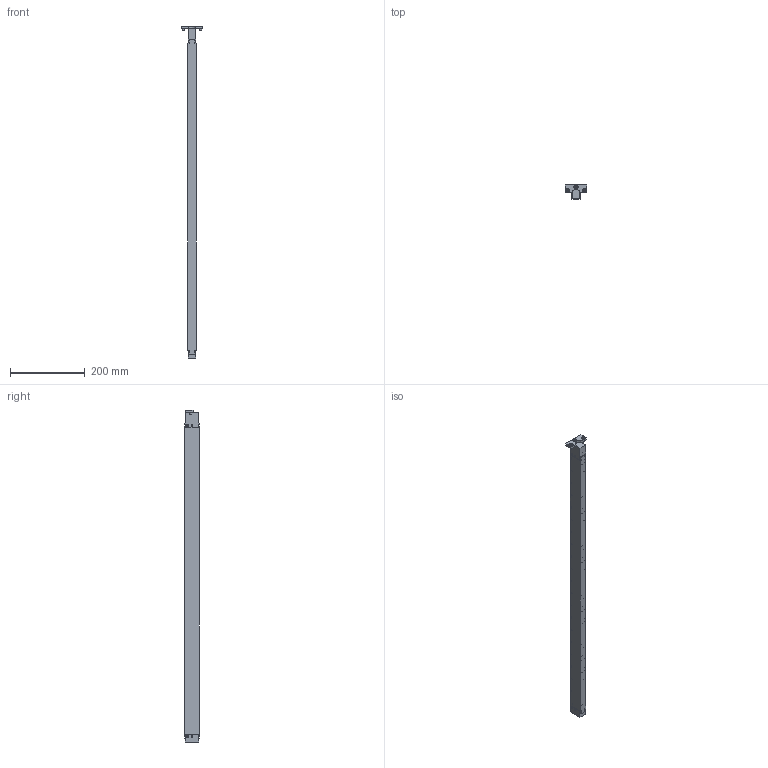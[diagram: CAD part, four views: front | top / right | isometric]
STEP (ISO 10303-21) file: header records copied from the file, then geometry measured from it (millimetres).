
FILE_DESCRIPTION(/* description */ (''),/* implementation_level */ '2;1');
FILE_NAME(/* name */ 'S:\EASCN Vault\Designs\Standard Part\DIE LIFTERS\EHB\EHB- 3D step\EHB22 - 3D step complete serie\EHB 22-21.stp',/* time_stamp */ '2019-11-21T14:45:53+08:00',/* author */ ('yue.yang'),/* organization */ (''),/* preprocessor_version */ 'ST-DEVELOPER v17',/* originating_system */ 'Autodesk Inventor 2019',/* authorisation */ '');
FILE_SCHEMA (('AUTOMOTIVE_DESIGN { 1 0 10303 214 3 1 1 }'));
Length unit declared in the file: millimetre
Products named in the file (1): EHB 22-21_Shrinkwrap_1
Bounding box: 58 x 37.8 x 886 mm (x, y, z)
Volume: 570764.3 mm3; surface area: 224220.3 mm2
Topology: 75 solids, 75 shells, 728 faces, 2003 edges, 1447 vertices
Faces by surface type: plane 260, cylinder 229, cone 113, torus 105, sphere 21
Full cylindrical faces by diameter (mm): 3 x2, 4.134 x1, 5 x15, 5.5 x4, 6 x22, 6.647 x1, 8 x1, 10 x6, 12.2 x21, 16 x21, 16.4 x21, 17.05 x21, 19.05 x21, 19.2 x21
Entity records: 27221 total; most frequent: CARTESIAN_POINT 6750, DIRECTION 4450, ORIENTED_EDGE 3870, AXIS2_PLACEMENT_3D 1965, EDGE_CURVE 1935, VERTEX_POINT 1447, CIRCLE 1234, EDGE_LOOP 936
